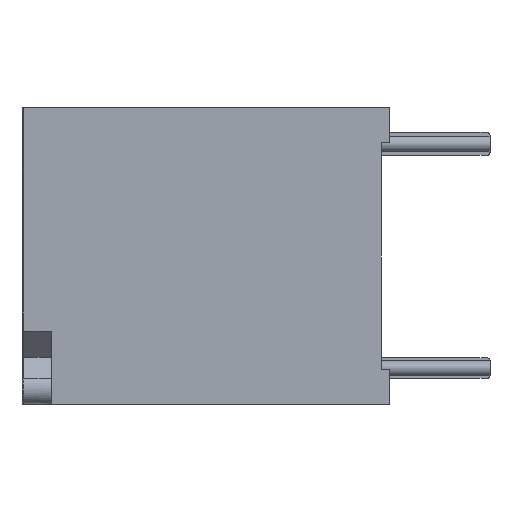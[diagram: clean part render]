
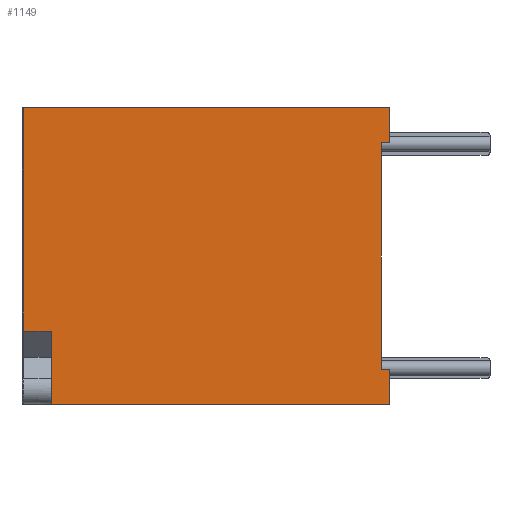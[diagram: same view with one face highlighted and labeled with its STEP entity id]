
A CAD part, left-side view. The second image highlights one B-rep face of the part: STEP entity #1149.
In plain terms, the highlighted planar face has unit normal (-1, 0, 0).
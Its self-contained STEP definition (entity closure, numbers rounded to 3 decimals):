
#100 = VECTOR ( 'NONE', #1586, 1000. ) ;
#175 = LINE ( 'NONE', #757, #609 ) ;
#211 = LINE ( 'NONE', #1210, #1877 ) ;
#246 = VERTEX_POINT ( 'NONE', #2176 ) ;
#336 = LINE ( 'NONE', #558, #100 ) ;
#373 = ORIENTED_EDGE ( 'NONE', *, *, #1681, .T. ) ;
#407 = ORIENTED_EDGE ( 'NONE', *, *, #2470, .F. ) ;
#516 = VERTEX_POINT ( 'NONE', #1873 ) ;
#524 = CARTESIAN_POINT ( 'NONE',  ( 0., 12.45, 2.5 ) ) ;
#544 = ORIENTED_EDGE ( 'NONE', *, *, #829, .T. ) ;
#546 = EDGE_CURVE ( 'NONE', #2462, #516, #892, .T. ) ;
#558 = CARTESIAN_POINT ( 'NONE',  ( 0., 11.5, 0. ) ) ;
#593 = EDGE_CURVE ( 'NONE', #1609, #1000, #1515, .T. ) ;
#597 = EDGE_CURVE ( 'NONE', #895, #614, #1552, .T. ) ;
#609 = VECTOR ( 'NONE', #1387, 1000. ) ;
#614 = VERTEX_POINT ( 'NONE', #703 ) ;
#673 = LINE ( 'NONE', #2296, #1499 ) ;
#703 = CARTESIAN_POINT ( 'NONE',  ( 0., 0.3, 8.9 ) ) ;
#713 = CARTESIAN_POINT ( 'NONE',  ( 0., 0., 10.1 ) ) ;
#729 = AXIS2_PLACEMENT_3D ( 'NONE', #1994, #2590, #1812 ) ;
#751 = CARTESIAN_POINT ( 'NONE',  ( 0., 12.45, 10.1 ) ) ;
#757 = CARTESIAN_POINT ( 'NONE',  ( 0., 0., 10.1 ) ) ;
#801 = ORIENTED_EDGE ( 'NONE', *, *, #2277, .F. ) ;
#823 = VERTEX_POINT ( 'NONE', #2401 ) ;
#829 = EDGE_CURVE ( 'NONE', #1575, #823, #211, .T. ) ;
#892 = LINE ( 'NONE', #1663, #2432 ) ;
#895 = VERTEX_POINT ( 'NONE', #1648 ) ;
#902 = CARTESIAN_POINT ( 'NONE',  ( 0., 0., 8.9 ) ) ;
#956 = DIRECTION ( 'NONE',  ( 0., 0., -1. ) ) ;
#1000 = VERTEX_POINT ( 'NONE', #524 ) ;
#1080 = DIRECTION ( 'NONE',  ( 0., -1., 0. ) ) ;
#1131 = ORIENTED_EDGE ( 'NONE', *, *, #593, .F. ) ;
#1149 = ADVANCED_FACE ( 'NONE', ( #1799 ), #1189, .F. ) ;
#1163 = VECTOR ( 'NONE', #956, 1000. ) ;
#1189 = PLANE ( 'NONE',  #729 ) ;
#1197 = ORIENTED_EDGE ( 'NONE', *, *, #1375, .F. ) ;
#1210 = CARTESIAN_POINT ( 'NONE',  ( 0., 0., 0. ) ) ;
#1254 = CARTESIAN_POINT ( 'NONE',  ( 0., 11.5, 0. ) ) ;
#1317 = LINE ( 'NONE', #713, #1163 ) ;
#1336 = ORIENTED_EDGE ( 'NONE', *, *, #1643, .F. ) ;
#1339 = DIRECTION ( 'NONE',  ( 0., 1., 0. ) ) ;
#1375 = EDGE_CURVE ( 'NONE', #614, #1841, #673, .T. ) ;
#1387 = DIRECTION ( 'NONE',  ( 0., 0., -1. ) ) ;
#1499 = VECTOR ( 'NONE', #2093, 1000. ) ;
#1515 = LINE ( 'NONE', #2158, #2099 ) ;
#1524 = DIRECTION ( 'NONE',  ( 0., 1., 0. ) ) ;
#1551 = DIRECTION ( 'NONE',  ( 0., 0., -1. ) ) ;
#1552 = LINE ( 'NONE', #902, #2387 ) ;
#1575 = VERTEX_POINT ( 'NONE', #1254 ) ;
#1585 = ORIENTED_EDGE ( 'NONE', *, *, #2189, .F. ) ;
#1586 = DIRECTION ( 'NONE',  ( 0., 0., 1. ) ) ;
#1609 = VERTEX_POINT ( 'NONE', #1827 ) ;
#1643 = EDGE_CURVE ( 'NONE', #1841, #246, #2085, .T. ) ;
#1648 = CARTESIAN_POINT ( 'NONE',  ( 0., 0., 8.9 ) ) ;
#1663 = CARTESIAN_POINT ( 'NONE',  ( 0., 0., 10.1 ) ) ;
#1681 = EDGE_CURVE ( 'NONE', #2462, #1000, #1918, .T. ) ;
#1730 = CARTESIAN_POINT ( 'NONE',  ( 0., 12.45, 10.1 ) ) ;
#1743 = VECTOR ( 'NONE', #1080, 1000. ) ;
#1799 = FACE_OUTER_BOUND ( 'NONE', #1912, .T. ) ;
#1812 = DIRECTION ( 'NONE',  ( 0., 1., 0. ) ) ;
#1827 = CARTESIAN_POINT ( 'NONE',  ( 0., 11.5, 2.5 ) ) ;
#1841 = VERTEX_POINT ( 'NONE', #2592 ) ;
#1873 = CARTESIAN_POINT ( 'NONE',  ( 0., 0., 10.1 ) ) ;
#1877 = VECTOR ( 'NONE', #2385, 1000. ) ;
#1912 = EDGE_LOOP ( 'NONE', ( #2007, #373, #1131, #1585, #544, #407, #1336, #1197, #2561, #801 ) ) ;
#1918 = LINE ( 'NONE', #1730, #2597 ) ;
#1994 = CARTESIAN_POINT ( 'NONE',  ( 0., 0., 10.1 ) ) ;
#2007 = ORIENTED_EDGE ( 'NONE', *, *, #546, .F. ) ;
#2085 = LINE ( 'NONE', #2103, #1743 ) ;
#2093 = DIRECTION ( 'NONE',  ( 0., 0., -1. ) ) ;
#2099 = VECTOR ( 'NONE', #1339, 1000. ) ;
#2103 = CARTESIAN_POINT ( 'NONE',  ( 0., 0., 1.2 ) ) ;
#2158 = CARTESIAN_POINT ( 'NONE',  ( 0., 11.5, 2.5 ) ) ;
#2176 = CARTESIAN_POINT ( 'NONE',  ( 0., 0., 1.2 ) ) ;
#2189 = EDGE_CURVE ( 'NONE', #1575, #1609, #336, .T. ) ;
#2277 = EDGE_CURVE ( 'NONE', #516, #895, #175, .T. ) ;
#2296 = CARTESIAN_POINT ( 'NONE',  ( 0., 0.3, 1.2 ) ) ;
#2385 = DIRECTION ( 'NONE',  ( 0., -1., 0. ) ) ;
#2387 = VECTOR ( 'NONE', #1524, 1000. ) ;
#2401 = CARTESIAN_POINT ( 'NONE',  ( 0., 0., 0. ) ) ;
#2432 = VECTOR ( 'NONE', #2501, 1000. ) ;
#2462 = VERTEX_POINT ( 'NONE', #751 ) ;
#2470 = EDGE_CURVE ( 'NONE', #246, #823, #1317, .T. ) ;
#2501 = DIRECTION ( 'NONE',  ( 0., -1., 0. ) ) ;
#2561 = ORIENTED_EDGE ( 'NONE', *, *, #597, .F. ) ;
#2590 = DIRECTION ( 'NONE',  ( 1., 0., 0. ) ) ;
#2592 = CARTESIAN_POINT ( 'NONE',  ( 0., 0.3, 1.2 ) ) ;
#2597 = VECTOR ( 'NONE', #1551, 1000. ) ;
